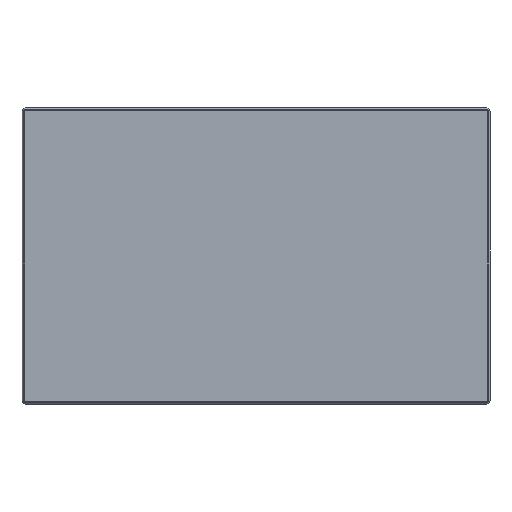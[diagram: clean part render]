
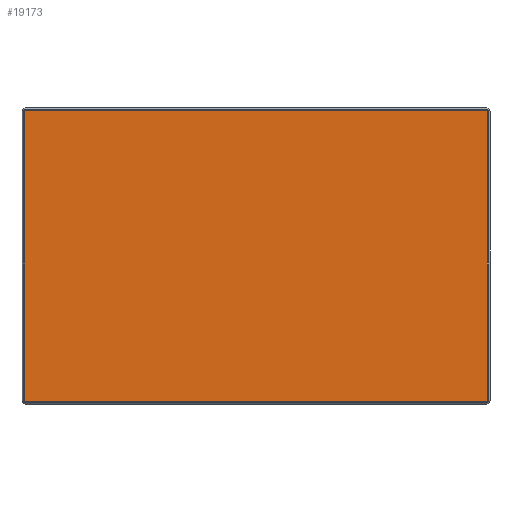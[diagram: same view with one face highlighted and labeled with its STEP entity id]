
A CAD part, top view. The second image highlights one B-rep face of the part: STEP entity #19173.
In plain terms, the highlighted planar face has unit normal (0, 0, 1).
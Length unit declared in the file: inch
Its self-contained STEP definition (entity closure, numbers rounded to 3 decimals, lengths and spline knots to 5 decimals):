
#9325=DIRECTION('',(0.,-1.,0.));
#9326=VECTOR('',#9325,11.24409);
#9327=CARTESIAN_POINT('',(18.14945,11.40157,2.73386));
#9328=LINE('',#9327,#9326);
#9329=CARTESIAN_POINT('',(18.09449,0.15748,2.73386));
#9330=DIRECTION('',(0.,0.,-1.));
#9331=DIRECTION('',(1.,0.,0.));
#9332=AXIS2_PLACEMENT_3D('',#9329,#9330,#9331);
#9334=DIRECTION('',(-1.,0.,0.));
#9335=VECTOR('',#9334,17.93701);
#9336=CARTESIAN_POINT('',(18.09449,0.10252,2.73386));
#9337=LINE('',#9336,#9335);
#9338=CARTESIAN_POINT('',(0.15748,0.15748,
2.73386));
#9339=DIRECTION('',(0.,0.,-1.));
#9340=DIRECTION('',(0.,-1.,0.));
#9341=AXIS2_PLACEMENT_3D('',#9338,#9339,#9340);
#9343=DIRECTION('',(0.,1.,0.));
#9344=VECTOR('',#9343,11.24409);
#9345=CARTESIAN_POINT('',(0.10252,0.15748,
2.73386));
#9346=LINE('',#9345,#9344);
#9347=CARTESIAN_POINT('',(0.15748,11.40157,2.73386));
#9348=DIRECTION('',(0.,0.,-1.));
#9349=DIRECTION('',(-1.,0.,0.));
#9350=AXIS2_PLACEMENT_3D('',#9347,#9348,#9349);
#9352=DIRECTION('',(1.,0.,0.));
#9353=VECTOR('',#9352,17.93701);
#9354=CARTESIAN_POINT('',(0.15748,11.45654,2.73386));
#9355=LINE('',#9354,#9353);
#9356=CARTESIAN_POINT('',(18.09449,11.40157,2.73386));
#9357=DIRECTION('',(0.,0.,-1.));
#9358=DIRECTION('',(0.,1.,0.));
#9359=AXIS2_PLACEMENT_3D('',#9356,#9357,#9358);
#9537=CARTESIAN_POINT('',(0.10252,0.15748,
2.73386));
#9538=CARTESIAN_POINT('',(0.10252,11.40157,2.73386));
#9539=VERTEX_POINT('',#9537);
#9540=VERTEX_POINT('',#9538);
#9541=CARTESIAN_POINT('',(18.14945,11.40157,2.73386));
#9542=CARTESIAN_POINT('',(18.14945,0.15748,2.73386));
#9543=VERTEX_POINT('',#9541);
#9544=VERTEX_POINT('',#9542);
#9545=CARTESIAN_POINT('',(18.09449,0.10252,2.73386));
#9546=VERTEX_POINT('',#9545);
#9547=CARTESIAN_POINT('',(0.15748,0.10252,
2.73386));
#9548=VERTEX_POINT('',#9547);
#9549=CARTESIAN_POINT('',(0.15748,11.45654,2.73386));
#9550=VERTEX_POINT('',#9549);
#9551=CARTESIAN_POINT('',(18.09449,11.45654,2.73386));
#9552=VERTEX_POINT('',#9551);
#19151=CARTESIAN_POINT('',(0.,0.,2.73386));
#19152=DIRECTION('',(0.,0.,1.));
#19153=DIRECTION('',(1.,0.,0.));
#19154=AXIS2_PLACEMENT_3D('',#19151,#19152,#19153);
#19155=PLANE('',#19154);
#19157=ORIENTED_EDGE('',*,*,#19156,.T.);
#19159=ORIENTED_EDGE('',*,*,#19158,.T.);
#19161=ORIENTED_EDGE('',*,*,#19160,.T.);
#19163=ORIENTED_EDGE('',*,*,#19162,.T.);
#19164=ORIENTED_EDGE('',*,*,#19141,.T.);
#19166=ORIENTED_EDGE('',*,*,#19165,.T.);
#19168=ORIENTED_EDGE('',*,*,#19167,.T.);
#19170=ORIENTED_EDGE('',*,*,#19169,.T.);
#19171=EDGE_LOOP('',(#19157,#19159,#19161,#19163,#19164,#19166,#19168,#19170));
#19172=FACE_OUTER_BOUND('',#19171,.F.);
#19173=ADVANCED_FACE('',(#19172),#19155,.T.);
#9333=CIRCLE('',#9332,0.05496);
#9342=CIRCLE('',#9341,0.05496);
#9351=CIRCLE('',#9350,0.05496);
#9360=CIRCLE('',#9359,0.05496);
#19141=EDGE_CURVE('',#9539,#9540,#9346,.T.);
#19156=EDGE_CURVE('',#9543,#9544,#9328,.T.);
#19158=EDGE_CURVE('',#9544,#9546,#9333,.T.);
#19160=EDGE_CURVE('',#9546,#9548,#9337,.T.);
#19162=EDGE_CURVE('',#9548,#9539,#9342,.T.);
#19165=EDGE_CURVE('',#9540,#9550,#9351,.T.);
#19167=EDGE_CURVE('',#9550,#9552,#9355,.T.);
#19169=EDGE_CURVE('',#9552,#9543,#9360,.T.);
